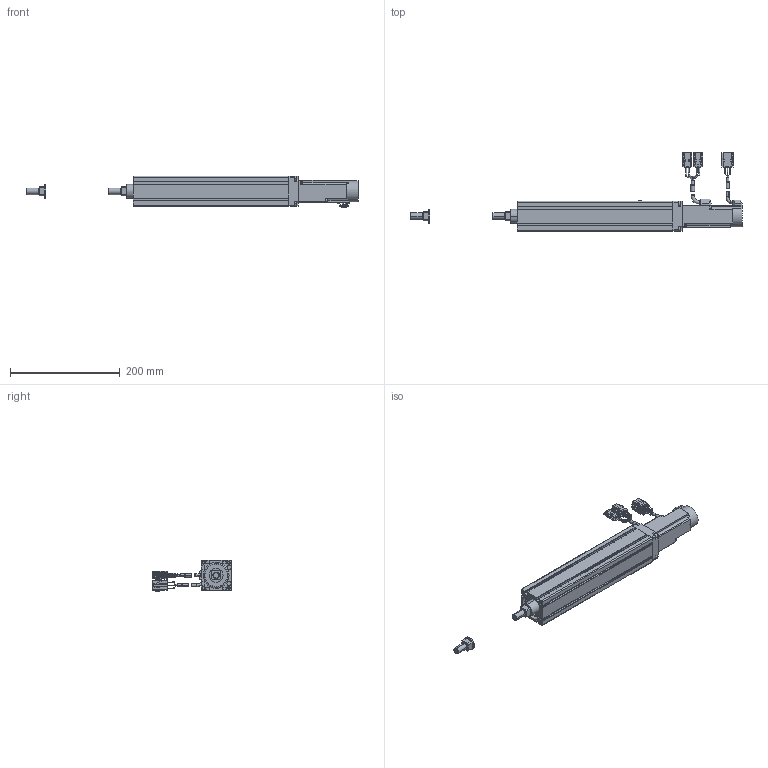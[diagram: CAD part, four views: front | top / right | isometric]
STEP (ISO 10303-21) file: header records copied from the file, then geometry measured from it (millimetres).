
FILE_DESCRIPTION((''),'2;1');
FILE_NAME('BET5E-ST-C_B-15_IGS_PRT','2017-06-18T',(' '),(''),'PRO/ENGINEER BY PARAMETRIC TECHNOLOGY CORPORATION, 2015030','PRO/ENGINEER BY PARAMETRIC TECHNOLOGY CORPORATION, 2015030','');
FILE_SCHEMA(('CONFIG_CONTROL_DESIGN'));
Length unit declared in the file: millimetre
Products named in the file (1): BET5E-ST-C_B-15_IGS_PRT
Bounding box: 604.1 x 142.99 x 57.56 mm (x, y, z)
Volume: 779052.6 mm3; surface area: 215408.6 mm2
Topology: 8 solids, 34 shells, 986 faces, 2605 edges, 1692 vertices
Faces by surface type: plane 649, cylinder 251, torus 62, cone 20, sphere 4
Entity records: 30654 total; most frequent: CARTESIAN_POINT 5622, DIRECTION 5197, ORIENTED_EDGE 5134, EDGE_CURVE 2595, VECTOR 1879, LINE 1879, VERTEX_POINT 1692, AXIS2_PLACEMENT_3D 1659
